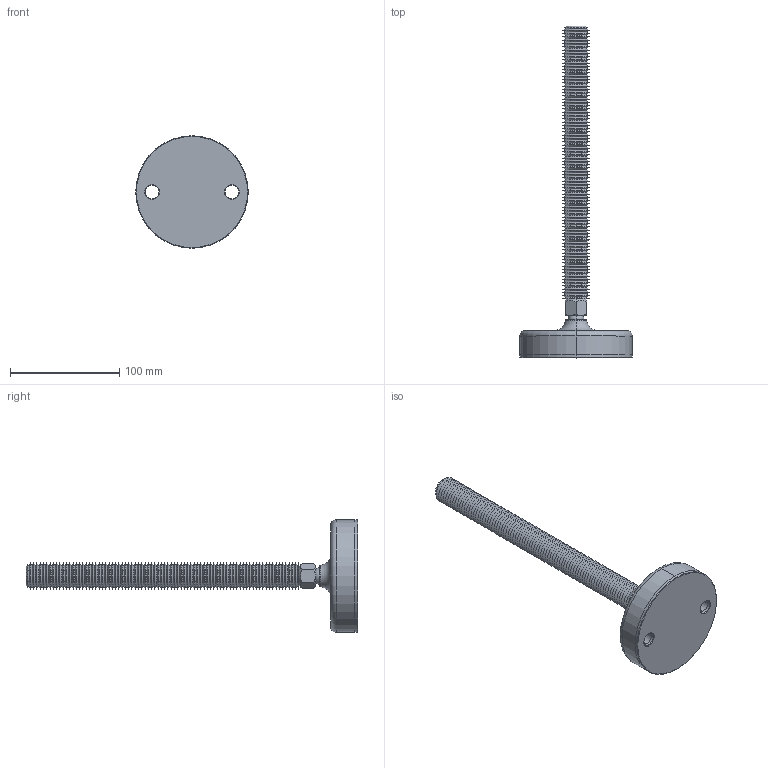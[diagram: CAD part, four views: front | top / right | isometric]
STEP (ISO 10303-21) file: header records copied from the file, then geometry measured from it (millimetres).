
FILE_DESCRIPTION (( 'STEP AP203' ), '1' );
FILE_NAME ('34724.W2407.step', '2019-11-28T22:21:49', ( '' ), ( '' ), 'SwSTEP 2.0', 'SolidWorks 2017', '' );
FILE_SCHEMA (( 'CONFIG_CONTROL_DESIGN' ));
Length unit declared in the file: millimetre
Products named in the file (4): Part1_34724.W2407; 34724.W2407; Part2_34724.W2407; Part3_34724.W2407
Assembly tree (3 placements, depth 2):
  34724.W2407
    Part1_34724.W2407
    Part2_34724.W2407
    Part3_34724.W2407
Bounding box: 103 x 304 x 103 mm (x, y, z)
Volume: 301198 mm3; surface area: 77911.1 mm2
Topology: 3 solids, 3 shells, 384 faces, 783 edges, 405 vertices
Faces by surface type: cone 350, plane 14, cylinder 12, sphere 4, torus 4
Entity records: 10266 total; most frequent: DIRECTION 1936, CARTESIAN_POINT 1716, ORIENTED_EDGE 1548, AXIS2_PLACEMENT_3D 784, EDGE_CURVE 774, VERTEX_POINT 400, EDGE_LOOP 396, CIRCLE 394
